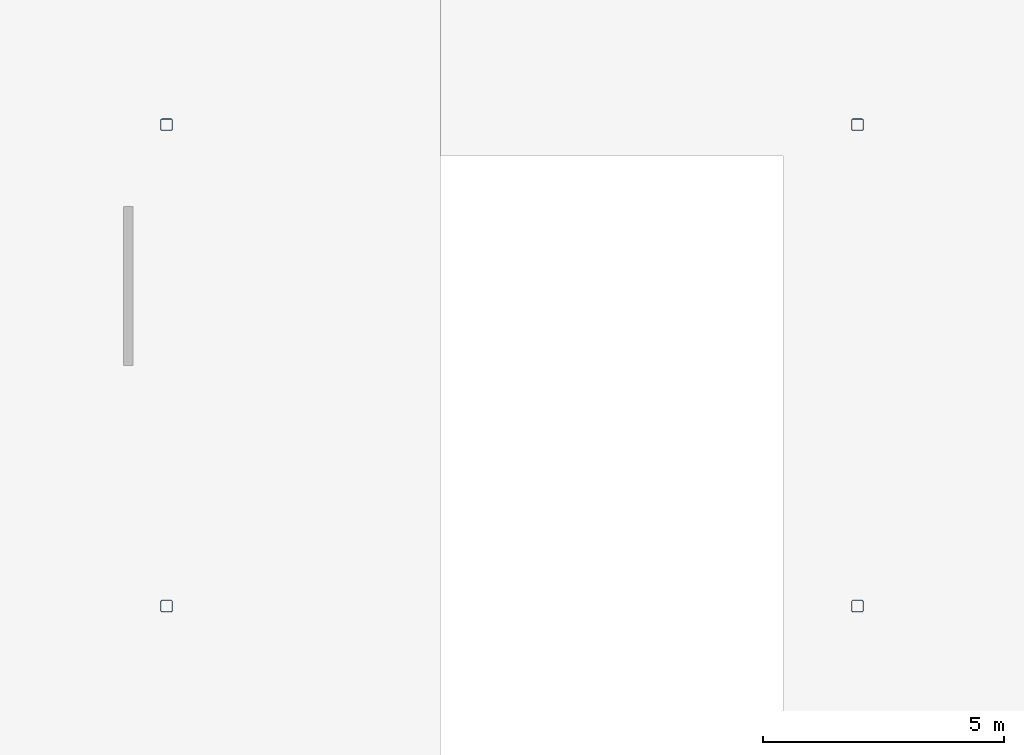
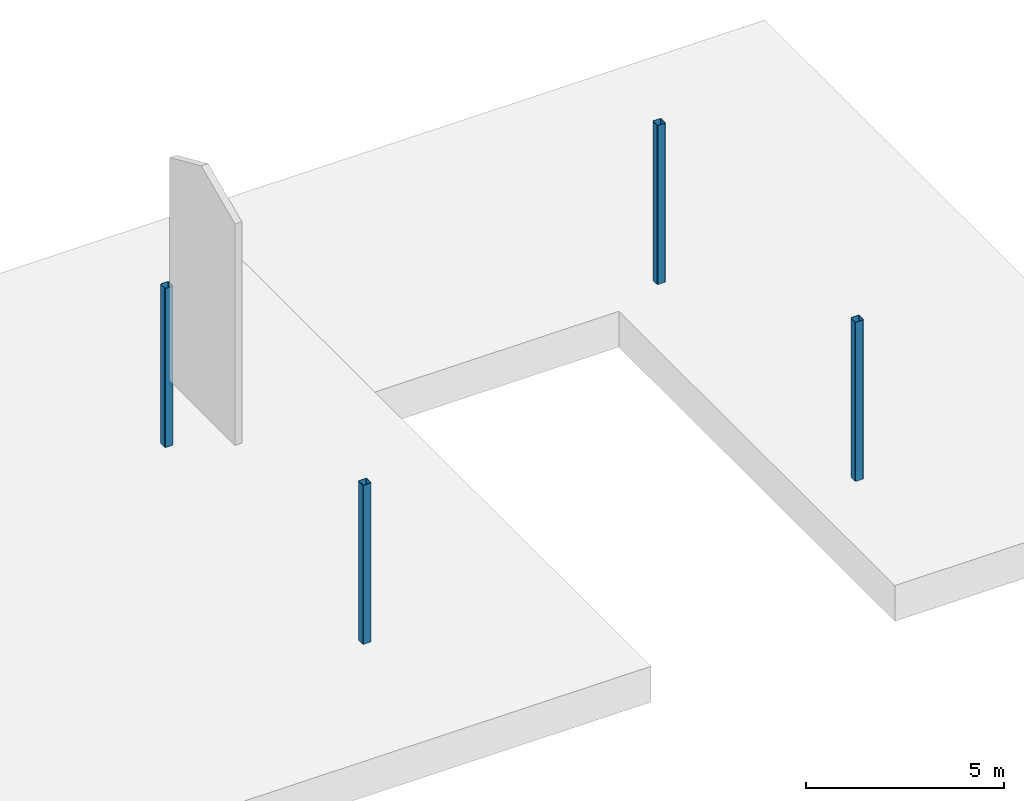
# One storey, part 1 of 2: 4 columns.
"""IFC2X3 building model written with IfcOpenShell, lengths in millimetres."""

from ifc_helpers import new_model, entity, si_unit, converted_unit, derived_unit, direction, frame, frame_2d, origin, place, context, subcontext, project, spatial, polyline, circle_curve, parameter, trimmed, segment, composite_curve, outline, extrude, source, transform, mapped, material, type_object, type_shapes, element, save


model = new_model("IFC2X3")

# Units and contexts
model_context = context("Model", 3, precision=0.01, world=origin(), true_north=direction((6.123031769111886e-17, 1.0)))
body_context = subcontext(model_context, "Body", "Model", "MODEL_VIEW")
ifc_project = project(units=[si_unit("LENGTHUNIT", "METRE", prefix="MILLI"), si_unit("AREAUNIT", "SQUARE_METRE"), si_unit("VOLUMEUNIT", "CUBIC_METRE"), converted_unit("PLANEANGLEUNIT", "DEGREE", entity("IfcRatioMeasure", 0.017453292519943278), si_unit("PLANEANGLEUNIT", "RADIAN"), dimensions=[0, 0, 0, 0, 0, 0, 0]), si_unit("MASSUNIT", "GRAM", prefix="KILO"), derived_unit("MASSDENSITYUNIT", [(si_unit("MASSUNIT", "GRAM", prefix="KILO"), 1), (si_unit("LENGTHUNIT", "METRE"), -3)]), derived_unit("MOMENTOFINERTIAUNIT", [(si_unit("LENGTHUNIT", "METRE"), 4)]), si_unit("TIMEUNIT", "SECOND"), si_unit("FREQUENCYUNIT", "HERTZ"), si_unit("THERMODYNAMICTEMPERATUREUNIT", "DEGREE_CELSIUS"), derived_unit("THERMALTRANSMITTANCEUNIT", [(si_unit("MASSUNIT", "GRAM", prefix="KILO"), 1), (si_unit("THERMODYNAMICTEMPERATUREUNIT", "KELVIN"), -1), (si_unit("TIMEUNIT", "SECOND"), -3)]), derived_unit("VOLUMETRICFLOWRATEUNIT", [(si_unit("LENGTHUNIT", "METRE"), 3), (si_unit("TIMEUNIT", "SECOND"), -1)]), derived_unit("MASSFLOWRATEUNIT", [(si_unit("MASSUNIT", "GRAM", prefix="KILO"), 1), (si_unit("TIMEUNIT", "SECOND"), -1)]), derived_unit("ROTATIONALFREQUENCYUNIT", [(si_unit("TIMEUNIT", "SECOND"), -1)]), si_unit("ELECTRICCURRENTUNIT", "AMPERE"), si_unit("ELECTRICVOLTAGEUNIT", "VOLT"), si_unit("POWERUNIT", "WATT"), si_unit("FORCEUNIT", "NEWTON", prefix="KILO"), si_unit("ILLUMINANCEUNIT", "LUX"), si_unit("LUMINOUSFLUXUNIT", "LUMEN"), si_unit("LUMINOUSINTENSITYUNIT", "CANDELA"), derived_unit("USERDEFINED", [(si_unit("MASSUNIT", "GRAM", prefix="KILO"), -1), (si_unit("LENGTHUNIT", "METRE"), -2), (si_unit("TIMEUNIT", "SECOND"), 3), (si_unit("LUMINOUSFLUXUNIT", "LUMEN"), 1)]), derived_unit("SOUNDPOWERUNIT", [(si_unit("MASSUNIT", "GRAM", prefix="KILO"), 1), (si_unit("LENGTHUNIT", "METRE"), 2), (si_unit("TIMEUNIT", "SECOND"), -3)]), derived_unit("SOUNDPRESSUREUNIT", [(si_unit("MASSUNIT", "GRAM", prefix="KILO"), 1), (si_unit("LENGTHUNIT", "METRE"), -1), (si_unit("TIMEUNIT", "SECOND"), -2)]), derived_unit("LINEARVELOCITYUNIT", [(si_unit("LENGTHUNIT", "METRE"), 1), (si_unit("TIMEUNIT", "SECOND"), -1)]), si_unit("PRESSUREUNIT", "PASCAL"), derived_unit("USERDEFINED", [(si_unit("LENGTHUNIT", "METRE"), -2), (si_unit("MASSUNIT", "GRAM", prefix="KILO"), 1), (si_unit("TIMEUNIT", "SECOND"), -2)]), derived_unit("LINEARFORCEUNIT", [(si_unit("MASSUNIT", "GRAM", prefix="KILO"), 1), (si_unit("LENGTHUNIT", "METRE"), 1), (si_unit("TIMEUNIT", "SECOND"), -2), (si_unit("LENGTHUNIT", "METRE"), -1)]), derived_unit("PLANARFORCEUNIT", [(si_unit("MASSUNIT", "GRAM", prefix="KILO"), 1), (si_unit("LENGTHUNIT", "METRE"), 1), (si_unit("TIMEUNIT", "SECOND"), -2), (si_unit("LENGTHUNIT", "METRE"), -2)])], contexts=[model_context])

# Site, building, storey
site_placement = place(None, origin())
site = spatial("IfcSite", under=ifc_project, at=site_placement, Name="Default", CompositionType="ELEMENT")
building_placement = place(site_placement, origin())
building = spatial("IfcBuilding", under=site, at=building_placement, CompositionType="ELEMENT")
storey_placement = place(building_placement, frame((0.0, 0.0, 1100.0)))
storey = spatial("IfcBuildingStorey", under=building, at=storey_placement, Name="1FL", CompositionType="ELEMENT", Elevation=1100.0)

# Columns
ifc_material = material(Name="メタル - SN400")
column_type = type_object("IfcColumnType", Name="正方型鋼管-柱:HSS250x250x12", PredefinedType="COLUMN", material=ifc_material)
shared_shape = source(origin(), body_context, "Body", "SweptSolid", [
    extrude(outline(composite_curve([segment(polyline([(-89.0, -125.0), (89.0, -125.0)]), True, "CONTINUOUS"), segment(trimmed(circle_curve(frame_2d((89.0, -89.0), x_axis=(-1.0, 0.0)), 36.0), [parameter(90.00000000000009)], [parameter(180.00000000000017)], True, "PARAMETER"), True, "CONTINUOUS"), segment(polyline([(125.0, -89.0), (125.0, 89.0)]), True, "CONTINUOUS"), segment(trimmed(circle_curve(frame_2d((89.0, 89.0), x_axis=(-1.0, 0.0)), 36.0), [parameter(180.00000000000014)], [parameter(269.9999999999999)], True, "PARAMETER"), True, "CONTINUOUS"), segment(polyline([(89.0, 125.0), (-89.0, 125.0)]), True, "CONTINUOUS"), segment(trimmed(circle_curve(frame_2d((-89.0, 89.0), x_axis=(-1.0, 0.0)), 36.0), [parameter(269.9999999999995)], [parameter(359.99999999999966)], True, "PARAMETER"), True, "CONTINUOUS"), segment(polyline([(-125.0, 89.0), (-125.0, -89.0)]), True, "CONTINUOUS"), segment(trimmed(circle_curve(frame_2d((-89.0, -89.0), x_axis=(-1.0, 0.0)), 36.0), [parameter(359.99999999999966)], [parameter(89.99999999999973)], True, "PARAMETER"), True, "CONTINUOUS")], self_intersect=False), holes=[composite_curve([segment(trimmed(circle_curve(frame_2d((-89.0, -89.0), x_axis=(-1.0, 0.0)), 24.0), [parameter(0.0)], [parameter(90.00000000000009)], True, "PARAMETER"), False, "CONTINUOUS"), segment(polyline([(-113.0, -89.0), (-113.0, 89.0)]), True, "CONTINUOUS"), segment(trimmed(circle_curve(frame_2d((-89.0, 89.0), x_axis=(-1.0, 0.0)), 24.0), [parameter(269.9999999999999)], [parameter(359.99999999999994)], True, "PARAMETER"), False, "CONTINUOUS"), segment(polyline([(-89.0, 113.0), (89.0, 113.0)]), True, "CONTINUOUS"), segment(trimmed(circle_curve(frame_2d((89.0, 89.0), x_axis=(-1.0, 0.0)), 24.0), [parameter(180.0000000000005)], [parameter(270.0000000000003)], True, "PARAMETER"), False, "CONTINUOUS"), segment(polyline([(113.0, 89.0), (113.0, -89.0)]), True, "CONTINUOUS"), segment(trimmed(circle_curve(frame_2d((89.0, -89.0), x_axis=(-1.0, 0.0)), 24.0), [parameter(90.00000000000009)], [parameter(179.9999999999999)], True, "PARAMETER"), False, "CONTINUOUS"), segment(polyline([(89.0, -113.0), (-89.0, -113.0)]), True, "CONTINUOUS")], self_intersect=False)]), frame((0.0, 0.0, 1100.0), z_axis=(0.0, 0.0, 1.0), x_axis=(-1.0, 0.0, 0.0)), (0.0, 0.0, 1.0), 4900.0),
])
type_shapes(column_type, [shared_shape])
for number, where in (
    (1, (130700.0, 2500.0, -1100.0)),
    (2, (145050.0, 2500.0, -1100.0)),
    (3, (145050.0, 12500.0, -1100.0)),
    (4, (130700.0, 12500.0, -1100.0)),
):
    element("IfcColumn", number, at=place(storey_placement, frame(where)), inside=storey, type_object=column_type, material=ifc_material, Name="正方型鋼管-柱:HSS250x250x12", ObjectType="正方型鋼管-柱:HSS250x250x12", context=body_context, shape_type="MappedRepresentation", body=[
        mapped(shared_shape, transform((0.0, 0.0, 0.0), scale=1.0)),
    ])

save(model, "model.ifc")
